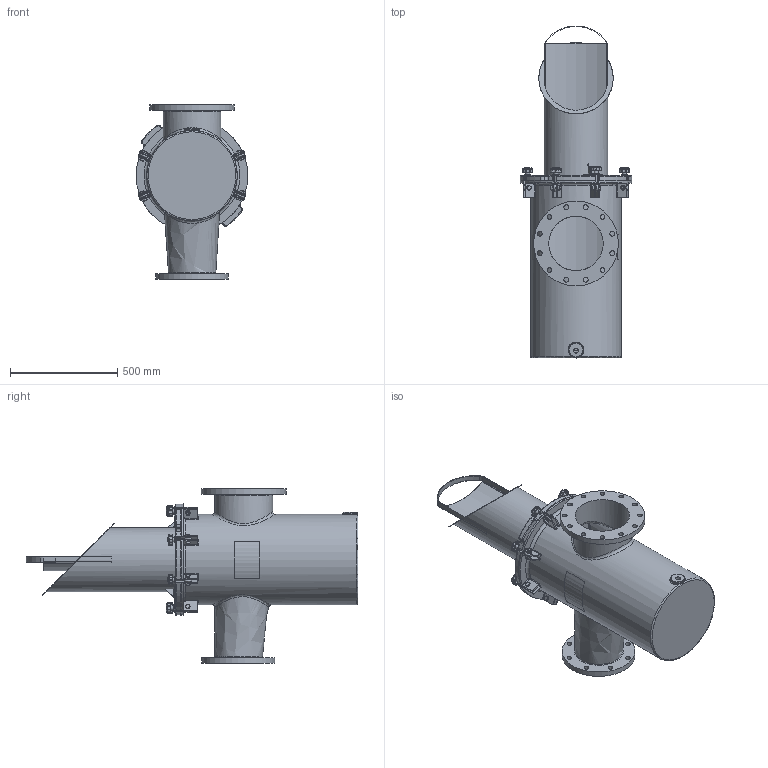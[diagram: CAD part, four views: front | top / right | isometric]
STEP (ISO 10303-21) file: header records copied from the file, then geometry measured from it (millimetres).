
FILE_DESCRIPTION(/* description */ ('250MM X 200MM FIBERGLASS STRAINER BODY'),/* implementation_level */ '2;1');
FILE_NAME(/* name */ 'C:\Users\r.kommineni.ext\Desktop\NB\CAD\Workspace\FG Reducing Strainer\Guardian FG Reducing H&L Strainer (Metric)_CLEARANCE VOLUME\STRAINER H&L 250MM X 200MM.stp',/* time_stamp */ '2017-06-09T13:33:30-04:00',/* author */ ('r.kommineni.ext'),/* organization */ (''),/* preprocessor_version */ 'ST-DEVELOPER v16.1',/* originating_system */ 'Autodesk Inventor 2016',/* authorisation */ '');
FILE_SCHEMA (('CONFIG_CONTROL_DESIGN'));
Length unit declared in the file: inch
Products named in the file (25): NBFGBODY10X08MM; 150NBCVR20R2; 150NBGSK16R1; Perforated Basket 16in; Bride (Ring) 16in; Baffle 16in; Handle 16in; Bottom Strainer 16in; BRACESTRCVR16_Welds; BRACE (BASE) FOR 16 BODY; BRACE (PROJ) FOR 16 BODY; Bumper; BRACESTRCVR16; Nut- 1_2  UNC; Bolt-1_2 x 1 1_2  UNC; EyeBolt; Washer; Knob M10; Securing Assembly For FG  with Brace; Securing Assembly For FG without Brace; Label for 16.625 inch (Right); Label for 16.625 inch (Left); NBBSK10T316_clearance; NBBSK10T316_clearance_1; STRAINER H&L 250MM X 200MM
Assembly tree (40 placements, depth 3):
  STRAINER H&L 250MM X 200MM
    NBFGBODY10X08MM
    150NBCVR20R2
    150NBGSK16R1
    NBBSK10T316_clearance_1
      Perforated Basket 16in
      Bride (Ring) 16in
      Baffle 16in
      Handle 16in
      Bottom Strainer 16in
      NBBSK10T316_clearance
    BRACESTRCVR16
      BRACESTRCVR16_Welds
      BRACE (BASE) FOR 16 BODY
      BRACE (PROJ) FOR 16 BODY
      Bumper  x6
    Securing Assembly For FG  with Brace  x2
      Nut- 1_2  UNC
      Bolt-1_2 x 1 1_2  UNC
      EyeBolt
      Washer
      Knob M10
    Securing Assembly For FG without Brace  x6
      Nut- 1_2  UNC
      Bolt-1_2 x 1 1_2  UNC
      EyeBolt
      Washer
      Knob M10
    Label for 16.625 inch (Right)
    Label for 16.625 inch (Left)
Bounding box: 520.7 x 1548.8 x 812.8 mm (x, y, z)
Volume: 23147236.9 mm3; surface area: 6612605.3 mm2
Topology: 66 solids, 69 shells, 1832 faces, 4192 edges, 2483 vertices
Faces by surface type: cylinder 671, plane 514, cone 184, torus 166, sphere 158, bspline 139
Full cylindrical faces by diameter (mm): 3.175 x11, 6.35 x2, 8.382 x8, 9.525 x16, 10.592 x8, 12.7 x8, 15.875 x16, 19 x16, 19.05 x8, 22.098 x20, 22.809 x1, 31.75 x8, 68.263 x1, 254 x1, 269.875 x1, 295.275 x2, 298.45 x2, 300.99 x1, 340.36 x1, 396.24 x1, 406.4 x2, 409.575 x1, 415.925 x1, 422.275 x1, 457.2 x1, 463.55 x1
Entity records: 35550 total; most frequent: CARTESIAN_POINT 12047, DIRECTION 4874, ORIENTED_EDGE 4405, EDGE_CURVE 2227, AXIS2_PLACEMENT_3D 1989, VERTEX_POINT 1399, EDGE_LOOP 1197, ADVANCED_FACE 982
